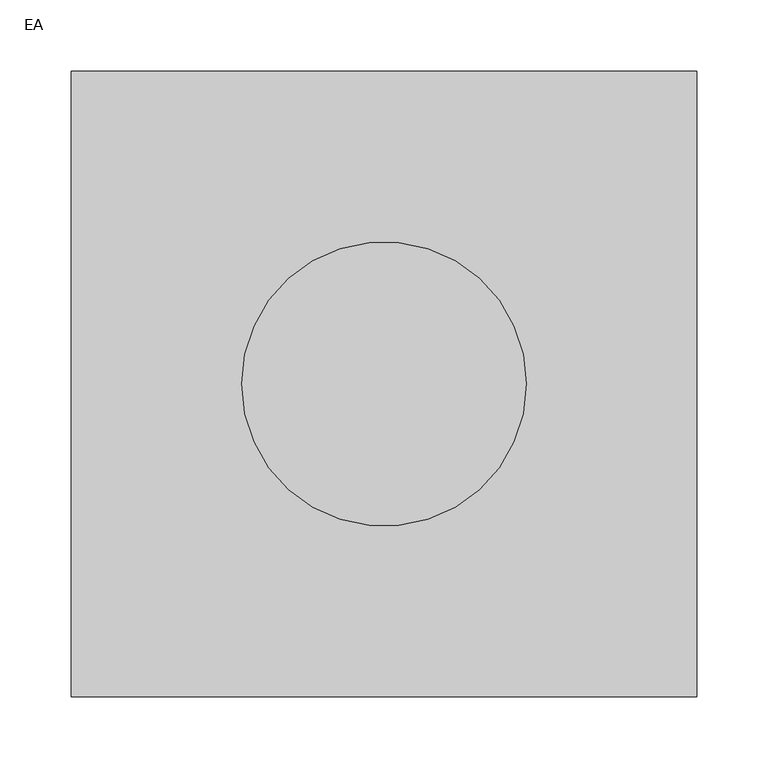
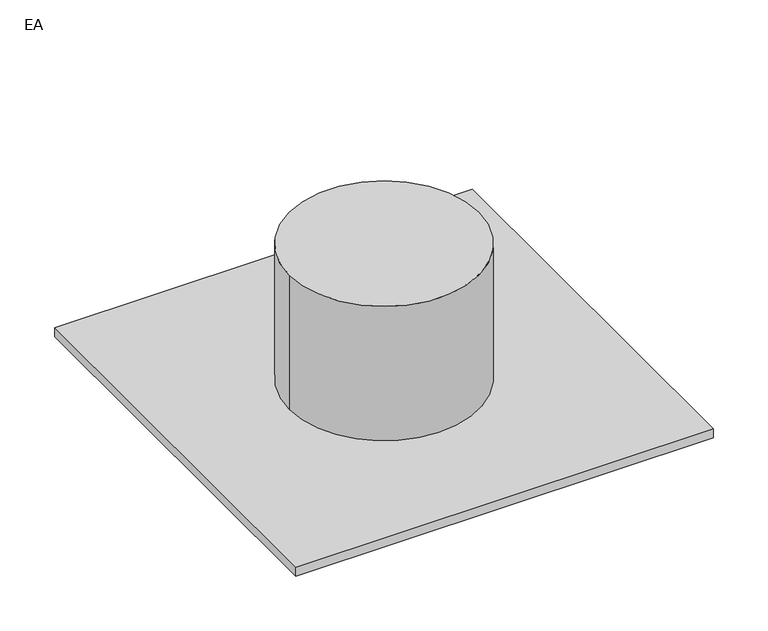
"""IFC4 building model written with IfcOpenShell, lengths in millimetres: air terminal geometry, 031_シーリングディフューザー : EA."""

from ifc_helpers import new_model, si_unit, point, frame, origin, origin_with_axes, origin_2d, place, context, project, spatial, polyline, circle_curve, trimmed, segment, composite_curve, outline, extrude, source, transform, mapped, element, save


def ea_6dbd1585(model_context):
    return source(origin(), model_context, "Body", "SweptSolid", [
        extrude(outline(polyline([(220.0, -220.0), (-220.0, -220.0), (-220.0, 220.0), (220.0, 220.0), (220.0, -220.0)])), frame((0.0, 0.0, -10.0), z_axis=(0.0, 0.0, 1.0), x_axis=(1.0, 0.0, 0.0)), (0.0, 0.0, 1.0), 10.0),
        extrude(outline(composite_curve([segment(trimmed(circle_curve(origin_2d(), 100.0), [point((-100.0, 0.0))], [point((100.0, 0.0))], False, "CARTESIAN"), True, "CONTINUOUS"), segment(trimmed(circle_curve(origin_2d(), 100.0), [point((100.0, 0.0))], [point((-100.0, 0.0))], False, "CARTESIAN"), True, "CONTINUOUS")], self_intersect=False)), origin_with_axes(), (0.0, 0.0, 1.0), 150.0),
    ])


if __name__ == "__main__":
    model = new_model("IFC4")
    model_context = context("Model", 3, world=origin())
    ifc_project = project(units=[si_unit("LENGTHUNIT", "METRE", prefix="MILLI")], contexts=[model_context])
    site = spatial("IfcSite", under=ifc_project)
    building = spatial("IfcBuilding", under=site)
    placement = place(None, origin())
    ea_shape = ea_6dbd1585(model_context)
    element("IfcAirTerminal", 1, ObjectType="031_シーリングディフューザー : EA", at=placement, inside=building, context=model_context, shape_type="MappedRepresentation", body=[
        mapped(ea_shape, transform((0.0, 0.0, 0.0), x_axis=(1.0, 0.0, 0.0), y_axis=(0.0, 1.0, 0.0), z_axis=(0.0, 0.0, 1.0))),
    ])
    save(model, "model.ifc")
